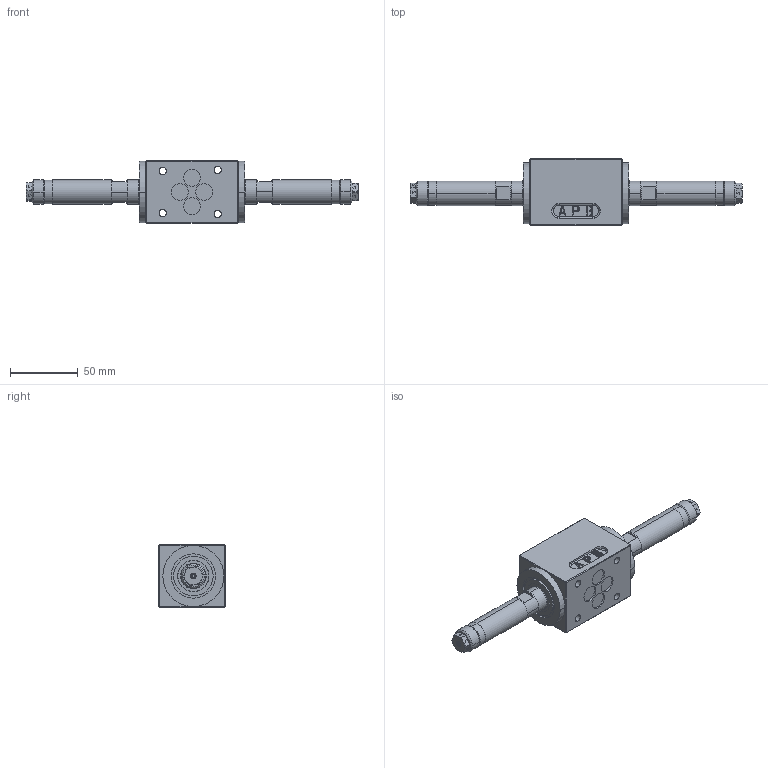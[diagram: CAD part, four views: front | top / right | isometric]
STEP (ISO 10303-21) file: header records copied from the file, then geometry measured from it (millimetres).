
FILE_DESCRIPTION (( 'STEP AP214' ), '1' );
FILE_NAME ('WDYFA06-4_3.STEP', '2016-04-25T07:40:48', ( '' ), ( '' ), 'SwSTEP 2.0', 'SolidWorks 2014', '' );
FILE_SCHEMA (( 'AUTOMOTIVE_DESIGN' ));
Length unit declared in the file: millimetre
Products named in the file (2): WDYFA06-4_3
Bounding box: 244.6 x 49 x 46 mm (x, y, z)
Volume: 201541.2 mm3; surface area: 33528.2 mm2
Topology: 1 solids, 1 shells, 1237 faces, 3417 edges, 2217 vertices
Faces by surface type: cylinder 554, plane 530, cone 75, bspline 36, torus 24, sphere 18
Entity records: 54876 total; most frequent: CARTESIAN_POINT 9346, DIRECTION 6881, ORIENTED_EDGE 6800, EDGE_CURVE 3400, AXIS2_PLACEMENT_3D 2435, VERTEX_POINT 2217, VECTOR 2011, LINE 2011
